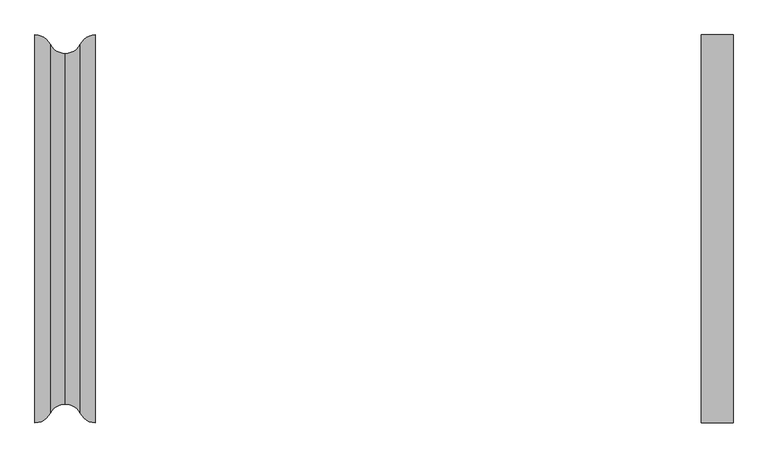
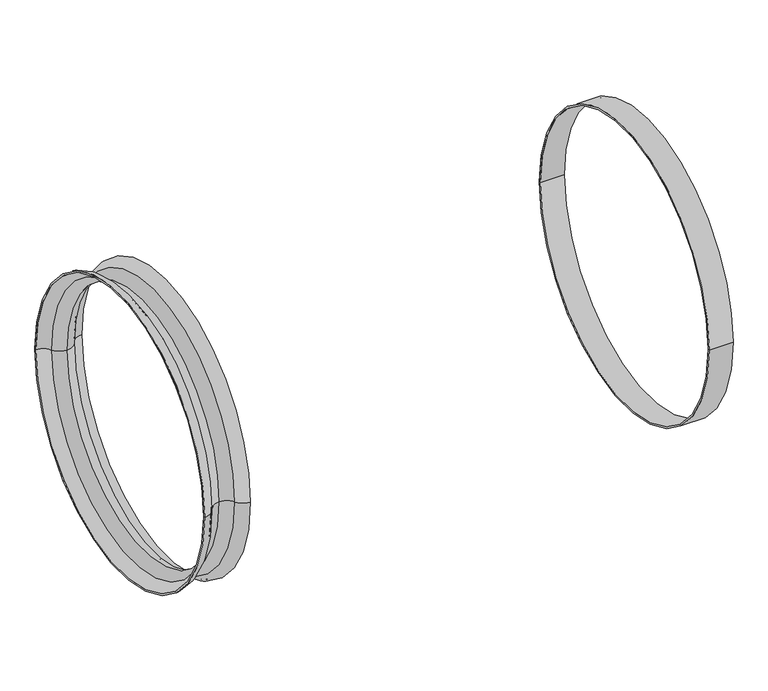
"""IFC4 building model written with IfcOpenShell, lengths in millimetres: pipe fitting geometry, Z_PIF_UN_Q-Bic_Plus_Shaft_Pipe_Wavin_(nested) : PP, RAL8012, ø600mm."""

from ifc_helpers import new_model, si_unit, point, frame, origin, place, context, project, spatial, polyline, circle_curve, ellipse_curve, trimmed, source, transform, mapped, element, save
from ifc_brep_helpers import plane_surface, cylinder_surface, revolved_surface, advanced_brep


def pipe_fitting_2391b2dd(model_context):
    return source(origin(), model_context, "Body", "AdvancedBrep", [
        advanced_brep(
        [(0.0, -336.4, 0.0), (0.0, 336.4, 0.0), (26.25, 320.3, 0.0), (26.25, -320.3, 0.0), (0.0, -332.7, 0.0), (0.0, 332.7, 0.0), (26.25, -316.6, 0.0), (26.25, 316.6, 0.0), (52.5, -300.5, 0.0), (52.5, 300.5, 0.0), (78.75, -316.6, 0.0), (78.75, 316.6, 0.0), (105.0, -332.7, 0.0), (105.0, 332.7, 0.0), (105.0, -336.4, 0.0), (105.0, 336.4, 0.0), (78.75, -320.3, 0.0), (78.75, 320.3, 0.0), (52.5, -304.2, 0.0), (52.5, 304.2, 0.0)],
        [
            (0, 1, circle_curve(frame((0.0, 0.0, 0.0), z_axis=(1.0, 0.0, 0.0), x_axis=(0.0, 1.0, 0.0)), 336.4)),
            (1, 2, circle_curve(frame((0.0, 306.9505435, 0.0), z_axis=(0.0, 0.0, -1.0), x_axis=(1.0, 0.0, 0.0)), 29.4494565)),
            (2, 3, circle_curve(frame((26.25, 0.0, 0.0), z_axis=(-1.0, 0.0, 0.0), x_axis=(0.0, 1.0, 0.0)), 320.3)),
            (3, 0, circle_curve(frame((0.0, -306.9505435, 0.0), z_axis=(0.0, 0.0, -1.0), x_axis=(1.0, 0.0, 0.0)), 29.4494565)),
            (1, 0, circle_curve(frame((0.0, 0.0, 0.0), z_axis=(1.0, 0.0, 0.0), x_axis=(0.0, 1.0, 0.0)), 336.4)),
            (3, 2, circle_curve(frame((26.25, 0.0, 0.0), z_axis=(-1.0, 0.0, 0.0), x_axis=(0.0, 1.0, 0.0)), 320.3)),
            (4, 5, circle_curve(frame((0.0, 0.0, 0.0), z_axis=(1.0, 0.0, 0.0), x_axis=(0.0, 1.0, 0.0)), 332.7)),
            (5, 1),
            (0, 4),
            (5, 4, circle_curve(frame((0.0, 0.0, 0.0), z_axis=(1.0, 0.0, 0.0), x_axis=(0.0, 1.0, 0.0)), 332.7)),
            (6, 7, circle_curve(frame((26.25, 0.0, 0.0), z_axis=(1.0, 0.0, 0.0), x_axis=(0.0, 1.0, 0.0)), 316.6)),
            (7, 5, circle_curve(frame((0.0, 303.2505435, 0.0), z_axis=(0.0, 0.0, 1.0), x_axis=(1.0, 0.0, 0.0)), 29.4494565)),
            (4, 6, circle_curve(frame((0.0, -303.2505435, 0.0), z_axis=(0.0, 0.0, 1.0), x_axis=(1.0, 0.0, 0.0)), 29.4494565)),
            (7, 6, circle_curve(frame((26.25, 0.0, 0.0), z_axis=(1.0, 0.0, 0.0), x_axis=(0.0, 1.0, 0.0)), 316.6)),
            (8, 9, circle_curve(frame((52.5, 0.0, 0.0), z_axis=(1.0, 0.0, 0.0), x_axis=(0.0, 1.0, 0.0)), 300.5)),
            (9, 7, circle_curve(frame((52.5, 329.9494565, 0.0), z_axis=(0.0, 0.0, -1.0), x_axis=(1.0, 0.0, 0.0)), 29.4494565)),
            (6, 8, circle_curve(frame((52.5, -329.9494565, 0.0), z_axis=(0.0, 0.0, -1.0), x_axis=(1.0, 0.0, 0.0)), 29.4494565)),
            (9, 8, circle_curve(frame((52.5, 0.0, 0.0), z_axis=(1.0, 0.0, 0.0), x_axis=(0.0, 1.0, 0.0)), 300.5)),
            (10, 11, circle_curve(frame((78.75, 0.0, 0.0), z_axis=(1.0, 0.0, 0.0), x_axis=(0.0, 1.0, 0.0)), 316.6)),
            (11, 9, circle_curve(frame((52.5, 329.9494565, 0.0), z_axis=(0.0, 0.0, -1.0), x_axis=(1.0, 0.0, 0.0)), 29.4494565)),
            (8, 10, circle_curve(frame((52.5, -329.9494565, 0.0), z_axis=(0.0, 0.0, -1.0), x_axis=(1.0, 0.0, 0.0)), 29.4494565)),
            (11, 10, circle_curve(frame((78.75, 0.0, 0.0), z_axis=(1.0, 0.0, 0.0), x_axis=(0.0, 1.0, 0.0)), 316.6)),
            (12, 13, circle_curve(frame((105.0, 0.0, 0.0), z_axis=(1.0, 0.0, 0.0), x_axis=(0.0, 1.0, 0.0)), 332.7)),
            (13, 11, circle_curve(frame((105.0, 303.2505435, 0.0), z_axis=(0.0, 0.0, 1.0), x_axis=(1.0, 0.0, 0.0)), 29.4494565)),
            (10, 12, circle_curve(frame((105.0, -303.2505435, 0.0), z_axis=(0.0, 0.0, 1.0), x_axis=(1.0, 0.0, 0.0)), 29.4494565)),
            (13, 12, circle_curve(frame((105.0, 0.0, 0.0), z_axis=(1.0, 0.0, 0.0), x_axis=(0.0, 1.0, 0.0)), 332.7)),
            (14, 15, circle_curve(frame((105.0, 0.0, 0.0), z_axis=(1.0, 0.0, 0.0), x_axis=(0.0, 1.0, 0.0)), 336.4)),
            (15, 13),
            (12, 14),
            (15, 14, circle_curve(frame((105.0, 0.0, 0.0), z_axis=(1.0, 0.0, 0.0), x_axis=(0.0, 1.0, 0.0)), 336.4)),
            (16, 17, circle_curve(frame((78.75, 0.0, 0.0), z_axis=(1.0, 0.0, 0.0), x_axis=(0.0, 1.0, 0.0)), 320.3)),
            (17, 15, circle_curve(frame((105.0, 306.9505435, 0.0), z_axis=(0.0, 0.0, -1.0), x_axis=(1.0, 0.0, 0.0)), 29.4494565)),
            (14, 16, circle_curve(frame((105.0, -306.9505435, 0.0), z_axis=(0.0, 0.0, -1.0), x_axis=(1.0, 0.0, 0.0)), 29.4494565)),
            (17, 16, circle_curve(frame((78.75, 0.0, 0.0), z_axis=(1.0, 0.0, 0.0), x_axis=(0.0, 1.0, 0.0)), 320.3)),
            (18, 19, circle_curve(frame((52.5, 0.0, 0.0), z_axis=(1.0, 0.0, 0.0), x_axis=(0.0, 1.0, 0.0)), 304.2)),
            (19, 17, circle_curve(frame((52.5, 333.6494565, 0.0), z_axis=(0.0, 0.0, 1.0), x_axis=(1.0, 0.0, 0.0)), 29.4494565)),
            (16, 18, circle_curve(frame((52.5, -333.6494565, 0.0), z_axis=(0.0, 0.0, 1.0), x_axis=(1.0, 0.0, 0.0)), 29.4494565)),
            (19, 18, circle_curve(frame((52.5, 0.0, 0.0), z_axis=(1.0, 0.0, 0.0), x_axis=(0.0, 1.0, 0.0)), 304.2)),
            (2, 19, circle_curve(frame((52.5, 333.6494565, 0.0), z_axis=(0.0, 0.0, 1.0), x_axis=(1.0, 0.0, 0.0)), 29.4494565)),
            (18, 3, circle_curve(frame((52.5, -333.6494565, 0.0), z_axis=(0.0, 0.0, 1.0), x_axis=(1.0, 0.0, 0.0)), 29.4494565)),
        ],
        [
            revolved_surface(trimmed(ellipse_curve(frame((0.0, 306.9505435, 0.0), z_axis=(0.0, 0.0, 1.0), x_axis=(1.0, 0.0, 0.0)), 29.4494565, 29.4494565), [point((26.25, 320.3, 0.0))], [point((0.0, 336.4, 0.0))], True, "CARTESIAN"), (-50.0, 0.0, 0.0), (-1.0, 0.0, 0.0)),
            plane_surface(frame((0.0, 0.0, 0.0), z_axis=(-1.0, 0.0, 0.0), x_axis=(0.0, 1.0, 0.0))),
            revolved_surface(trimmed(ellipse_curve(frame((0.0, 303.2505435, 0.0), z_axis=(0.0, 0.0, -1.0), x_axis=(1.0, 0.0, 0.0)), 29.4494565, 29.4494565), [point((0.0, 332.7, 0.0))], [point((26.25, 316.6, 0.0))], True, "CARTESIAN"), (-50.0, 0.0, 0.0), (-1.0, 0.0, 0.0)),
            revolved_surface(trimmed(ellipse_curve(frame((52.5, 329.9494565, 0.0), z_axis=(0.0, 0.0, 1.0), x_axis=(1.0, 0.0, 0.0)), 29.4494565, 29.4494565), [point((26.25, 316.6, 0.0))], [point((52.5, 300.5, 0.0))], True, "CARTESIAN"), (-50.0, 0.0, 0.0), (-1.0, 0.0, 0.0)),
            revolved_surface(trimmed(ellipse_curve(frame((52.5, 329.9494565, 0.0), z_axis=(0.0, 0.0, 1.0), x_axis=(1.0, 0.0, 0.0)), 29.4494565, 29.4494565), [point((52.5, 300.5, 0.0))], [point((78.75, 316.6, 0.0))], True, "CARTESIAN"), (-50.0, 0.0, 0.0), (-1.0, 0.0, 0.0)),
            revolved_surface(trimmed(ellipse_curve(frame((105.0, 303.2505435, 0.0), z_axis=(0.0, 0.0, -1.0), x_axis=(1.0, 0.0, 0.0)), 29.4494565, 29.4494565), [point((78.75, 316.6, 0.0))], [point((105.0, 332.7, 0.0))], True, "CARTESIAN"), (-50.0, 0.0, 0.0), (-1.0, 0.0, 0.0)),
            plane_surface(frame((105.0, 0.0, 0.0), z_axis=(1.0, 0.0, 0.0), x_axis=(0.0, 1.0, 0.0))),
            revolved_surface(trimmed(ellipse_curve(frame((105.0, 306.9505435, 0.0), z_axis=(0.0, 0.0, 1.0), x_axis=(1.0, 0.0, 0.0)), 29.4494565, 29.4494565), [point((105.0, 336.4, 0.0))], [point((78.75, 320.3, 0.0))], True, "CARTESIAN"), (-50.0, 0.0, 0.0), (-1.0, 0.0, 0.0)),
            revolved_surface(trimmed(ellipse_curve(frame((52.5, 333.6494565, 0.0), z_axis=(0.0, 0.0, -1.0), x_axis=(1.0, 0.0, 0.0)), 29.4494565, 29.4494565), [point((78.75, 320.3, 0.0))], [point((52.5, 304.2, 0.0))], True, "CARTESIAN"), (-50.0, 0.0, 0.0), (-1.0, 0.0, 0.0)),
            revolved_surface(trimmed(ellipse_curve(frame((52.5, 333.6494565, 0.0), z_axis=(0.0, 0.0, -1.0), x_axis=(1.0, 0.0, 0.0)), 29.4494565, 29.4494565), [point((52.5, 304.2, 0.0))], [point((26.25, 320.3, 0.0))], True, "CARTESIAN"), (-50.0, 0.0, 0.0), (-1.0, 0.0, 0.0)),
        ],
        [
            (0, [[1, 2, 3, 4]]),
            (0, [[5, -4, 6, -2]]),
            (1, [[7, 8, -1, 9]]),
            (1, [[10, -9, -5, -8]]),
            (2, [[11, 12, -7, 13]]),
            (2, [[14, -13, -10, -12]]),
            (3, [[15, 16, -11, 17]]),
            (3, [[18, -17, -14, -16]]),
            (4, [[19, 20, -15, 21]]),
            (4, [[22, -21, -18, -20]]),
            (5, [[23, 24, -19, 25]]),
            (5, [[26, -25, -22, -24]]),
            (6, [[27, 28, -23, 29]]),
            (6, [[30, -29, -26, -28]]),
            (7, [[31, 32, -27, 33]]),
            (7, [[34, -33, -30, -32]]),
            (8, [[35, 36, -31, 37]]),
            (8, [[38, -37, -34, -36]]),
            (9, [[-3, 39, -35, 40]]),
            (9, [[-6, -40, -38, -39]]),
        ],
    ),
        advanced_brep(
        [(1155.0, -336.4, 0.0), (1155.0, 336.4, 0.0), (1210.0, 336.4, 0.0), (1210.0, -336.4, 0.0), (1155.0, -332.7, 0.0), (1155.0, 332.7, 0.0), (1210.0, -332.7, 0.0), (1210.0, 332.7, 0.0)],
        [
            (0, 1, circle_curve(frame((1155.0, 0.0, 0.0), z_axis=(1.0, 0.0, 0.0), x_axis=(0.0, 1.0, 0.0)), 336.4)),
            (1, 2),
            (2, 3, circle_curve(frame((1210.0, 0.0, 0.0), z_axis=(-1.0, 0.0, 0.0), x_axis=(0.0, 1.0, 0.0)), 336.4)),
            (3, 0),
            (1, 0, circle_curve(frame((1155.0, 0.0, 0.0), z_axis=(1.0, 0.0, 0.0), x_axis=(0.0, 1.0, 0.0)), 336.4)),
            (3, 2, circle_curve(frame((1210.0, 0.0, 0.0), z_axis=(-1.0, 0.0, 0.0), x_axis=(0.0, 1.0, 0.0)), 336.4)),
            (4, 5, circle_curve(frame((1155.0, 0.0, 0.0), z_axis=(1.0, 0.0, 0.0), x_axis=(0.0, 1.0, 0.0)), 332.7)),
            (5, 1),
            (0, 4),
            (5, 4, circle_curve(frame((1155.0, 0.0, 0.0), z_axis=(1.0, 0.0, 0.0), x_axis=(0.0, 1.0, 0.0)), 332.7)),
            (6, 7, circle_curve(frame((1210.0, 0.0, 0.0), z_axis=(1.0, 0.0, 0.0), x_axis=(0.0, 1.0, 0.0)), 332.7)),
            (7, 5),
            (4, 6),
            (7, 6, circle_curve(frame((1210.0, 0.0, 0.0), z_axis=(1.0, 0.0, 0.0), x_axis=(0.0, 1.0, 0.0)), 332.7)),
            (2, 7),
            (6, 3),
        ],
        [
            cylinder_surface(frame((1155.0, 0.0, 0.0), z_axis=(-1.0, 0.0, 0.0), x_axis=(0.0, 1.0, 0.0)), 336.4),
            plane_surface(frame((1155.0, 0.0, 0.0), z_axis=(-1.0, 0.0, 0.0), x_axis=(0.0, 1.0, 0.0))),
            revolved_surface(polyline([(1155.0, 332.7, 0.0), (1210.0, 332.7, 0.0)]), (1155.0, 0.0, 0.0), (-1.0, 0.0, 0.0)),
            plane_surface(frame((1210.0, 0.0, 0.0), z_axis=(1.0, 0.0, 0.0), x_axis=(0.0, 1.0, 0.0))),
        ],
        [
            (0, [[1, 2, 3, 4]]),
            (0, [[5, -4, 6, -2]]),
            (1, [[7, 8, -1, 9]]),
            (1, [[10, -9, -5, -8]]),
            (2, [[11, 12, -7, 13]]),
            (2, [[14, -13, -10, -12]]),
            (3, [[-3, 15, -11, 16]]),
            (3, [[-6, -16, -14, -15]]),
        ],
    ),
    ])


if __name__ == "__main__":
    model = new_model("IFC4")
    model_context = context("Model", 3, world=origin())
    ifc_project = project(units=[si_unit("LENGTHUNIT", "METRE", prefix="MILLI")], contexts=[model_context])
    site = spatial("IfcSite", under=ifc_project)
    building = spatial("IfcBuilding", under=site)
    placement = place(None, origin())
    pipe_fitting_shape = pipe_fitting_2391b2dd(model_context)
    element("IfcPipeFitting", 1, ObjectType="Z_PIF_UN_Q-Bic_Plus_Shaft_Pipe_Wavin_(nested) : PP, RAL8012, ø600mm", at=placement, inside=building, context=model_context, shape_type="MappedRepresentation", body=[
        mapped(pipe_fitting_shape, transform((0.0, 0.0, 0.0), x_axis=(1.0, 0.0, 0.0), y_axis=(0.0, 1.0, 0.0), z_axis=(0.0, 0.0, 1.0))),
    ])
    save(model, "model.ifc")
